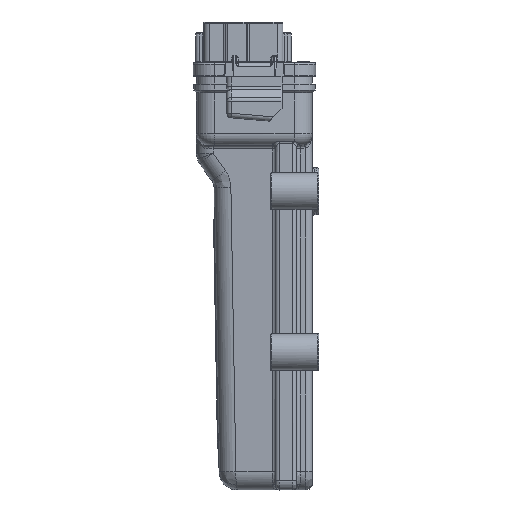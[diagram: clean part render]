
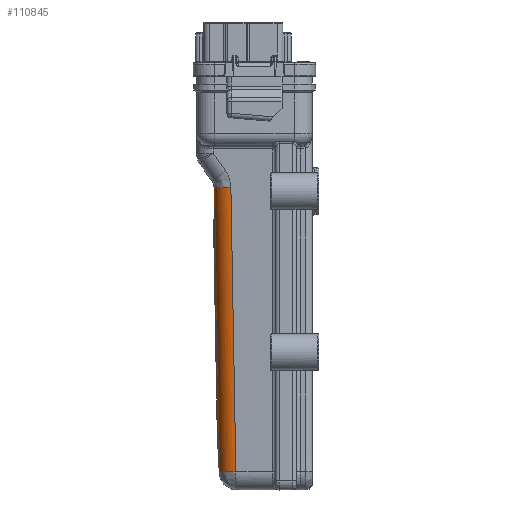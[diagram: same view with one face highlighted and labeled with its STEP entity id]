
A CAD part, left-side view. The second image highlights one B-rep face of the part: STEP entity #110845.
In plain terms, the highlighted cylindrical face has radius 8 mm (diameter 16 mm), a partial arc.
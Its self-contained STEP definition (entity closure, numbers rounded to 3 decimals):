
#1884 = B_SPLINE_CURVE_WITH_KNOTS ( 'NONE', 3,
 ( #14154, #24525, #96680, #34947, #107059, #45306, #117448, #55661, #127818, #66026 ),
 .UNSPECIFIED., .F., .F.,
 ( 4, 2, 2, 2, 4 ),
 ( 0., 0.25, 0.5, 0.75, 1. ),
 .UNSPECIFIED. ) ;
#6664 = CIRCLE ( 'NONE', #130723, 8. ) ;
#10972 = VERTEX_POINT ( 'NONE', #63971 ) ;
#13169 = CARTESIAN_POINT ( 'NONE',  ( -51.218, 9.552, -48.024 ) ) ;
#14154 = CARTESIAN_POINT ( 'NONE',  ( -59.188, 10.244, -48.354 ) ) ;
#16069 = DIRECTION ( 'NONE',  ( -0.002, -0.017, -1. ) ) ;
#24525 = CARTESIAN_POINT ( 'NONE',  ( -59.102, 11.229, -48.371 ) ) ;
#27627 = VERTEX_POINT ( 'NONE', #81088 ) ;
#33420 = CYLINDRICAL_SURFACE ( 'NONE', #90957, 8. ) ;
#34947 = CARTESIAN_POINT ( 'NONE',  ( -57.956, 13.971, -48.421 ) ) ;
#36644 = FACE_OUTER_BOUND ( 'NONE', #129848, .T. ) ;
#40979 = EDGE_CURVE ( 'NONE', #109324, #10972, #6664, .T. ) ;
#42509 = CARTESIAN_POINT ( 'NONE',  ( -59.377, 8.086, -172. ) ) ;
#45306 = CARTESIAN_POINT ( 'NONE',  ( -55.894, 16.112, -48.461 ) ) ;
#49533 = CARTESIAN_POINT ( 'NONE',  ( -51.407, 15.387, -172.14 ) ) ;
#50329 = EDGE_CURVE ( 'NONE', #27627, #10972, #99857, .T. ) ;
#52826 = DIRECTION ( 'NONE',  ( 0.002, 0.017, 1. ) ) ;
#55661 = CARTESIAN_POINT ( 'NONE',  ( -53.196, 17.36, -48.487 ) ) ;
#63971 = CARTESIAN_POINT ( 'NONE',  ( -51.407, 15.387, -172.14 ) ) ;
#64609 = DIRECTION ( 'NONE',  ( 0., 1., -0.017 ) ) ;
#64662 = VERTEX_POINT ( 'NONE', #98253 ) ;
#66026 = CARTESIAN_POINT ( 'NONE',  ( -51.218, 17.545, -48.494 ) ) ;
#66155 = VECTOR ( 'NONE', #52826, 1000. ) ;
#72420 = VECTOR ( 'NONE', #80171, 1000. ) ;
#75852 = LINE ( 'NONE', #42509, #66155 ) ;
#76286 = ORIENTED_EDGE ( 'NONE', *, *, #82453, .T. ) ;
#77834 = CARTESIAN_POINT ( 'NONE',  ( -51.407, 7.388, -172. ) ) ;
#78403 = ORIENTED_EDGE ( 'NONE', *, *, #103773, .T. ) ;
#80171 = DIRECTION ( 'NONE',  ( -0.002, -0.017, -1. ) ) ;
#81088 = CARTESIAN_POINT ( 'NONE',  ( -51.218, 17.545, -48.494 ) ) ;
#82453 = EDGE_CURVE ( 'NONE', #64662, #27627, #1884, .T. ) ;
#88239 = DIRECTION ( 'NONE',  ( 0., 1., -0.017 ) ) ;
#89305 = CARTESIAN_POINT ( 'NONE',  ( -59.377, 8.086, -172. ) ) ;
#90957 = AXIS2_PLACEMENT_3D ( 'NONE', #13169, #95266, #64609 ) ;
#95266 = DIRECTION ( 'NONE',  ( -0.002, -0.017, -1. ) ) ;
#96680 = CARTESIAN_POINT ( 'NONE',  ( -58.831, 12.198, -48.389 ) ) ;
#98253 = CARTESIAN_POINT ( 'NONE',  ( -59.188, 10.244, -48.354 ) ) ;
#98685 = ORIENTED_EDGE ( 'NONE', *, *, #50329, .T. ) ;
#99762 = ORIENTED_EDGE ( 'NONE', *, *, #40979, .F. ) ;
#99857 = LINE ( 'NONE', #49533, #72420 ) ;
#103773 = EDGE_CURVE ( 'NONE', #109324, #64662, #75852, .T. ) ;
#107059 = CARTESIAN_POINT ( 'NONE',  ( -57.352, 14.776, -48.436 ) ) ;
#109324 = VERTEX_POINT ( 'NONE', #89305 ) ;
#110845 = ADVANCED_FACE ( 'NONE', ( #36644 ), #33420, .T. ) ;
#117448 = CARTESIAN_POINT ( 'NONE',  ( -55.04, 16.643, -48.472 ) ) ;
#127818 = CARTESIAN_POINT ( 'NONE',  ( -52.207, 17.545, -48.492 ) ) ;
#129848 = EDGE_LOOP ( 'NONE', ( #99762, #78403, #76286, #98685 ) ) ;
#130723 = AXIS2_PLACEMENT_3D ( 'NONE', #77834, #16069, #88239 ) ;
